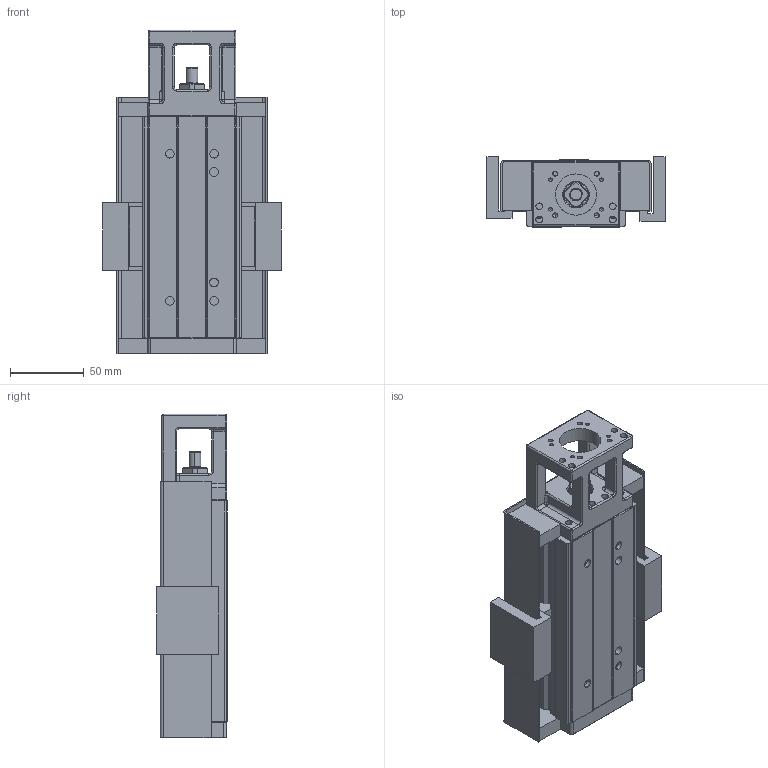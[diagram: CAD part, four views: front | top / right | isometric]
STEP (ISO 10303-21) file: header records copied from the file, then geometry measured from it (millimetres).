
FILE_DESCRIPTION (( 'STEP AP203' ), '1' );
FILE_NAME ('hkk60-150a1f0s.STEP', '2019-10-31T02:33:37', ( '微软用户' ), ( '微软中国' ), 'SwSTEP 2.0', 'SolidWorks 2016', '' );
FILE_SCHEMA (( 'CONFIG_CONTROL_DESIGN' ));
Products named in the file (3): hkk60-300_1; hkk60賑怢_1; hkk60-150a1f0s
Assembly tree (2 placements, depth 2):
  hkk60-150a1f0s
    hkk60-300_1
    hkk60賑怢_1
Bounding box: 121 x 48 x 220 mm (x, y, z)
Volume: 466121.1 mm3; surface area: 205410.5 mm2
Topology: 45 solids, 49 shells, 1376 faces, 3472 edges, 2108 vertices
Faces by surface type: cylinder 490, plane 468, bspline 211, cone 207
Entity records: 59904 total; most frequent: CARTESIAN_POINT 28454, ORIENTED_EDGE 6634, DIRECTION 6118, EDGE_CURVE 3317, AXIS2_PLACEMENT_3D 2229, VERTEX_POINT 2108, LINE 1660, VECTOR 1660
